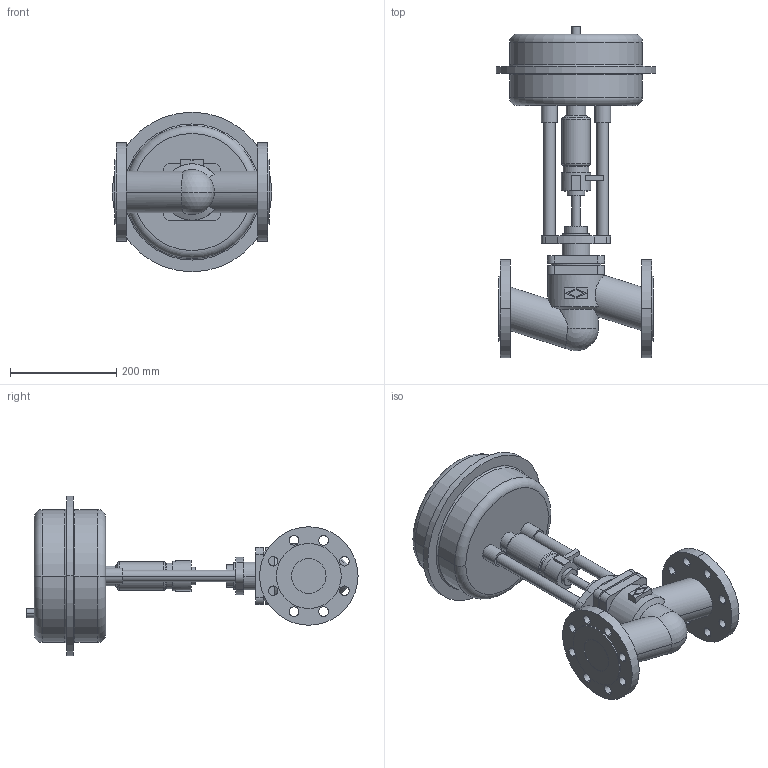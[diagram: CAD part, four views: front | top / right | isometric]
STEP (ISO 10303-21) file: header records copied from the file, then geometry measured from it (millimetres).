
FILE_DESCRIPTION(('OneSpaceDesigner STEP Export'),'2;1');
FILE_NAME('c000001489.stp','2005-02-15T 9:33:02',(''),(''),'OneSpace Designer STEP processor (Jan. 2003) for AP203(Solid Model)','OneSpace Designer 12.01D 09-Jul-2004 (C) CoCreate Software GmbH','');
FILE_SCHEMA(('CONFIG_CONTROL_DESIGN'));
Length unit declared in the file: millimetre
Products named in the file (2): 1; 2
Bounding box: 300 x 624.1 x 300 mm (x, y, z)
Volume: 10665228.5 mm3; surface area: 573712 mm2
Topology: 2 solids, 2 shells, 197 faces, 485 edges, 317 vertices
Faces by surface type: cylinder 100, plane 73, torus 16, cone 6, sphere 2
Entity records: 5600 total; most frequent: CARTESIAN_POINT 1135, ORIENTED_EDGE 966, DIRECTION 791, EDGE_CURVE 483, VERTEX_POINT 317, AXIS2_PLACEMENT_3D 288, EDGE_LOOP 256, VECTOR 215
